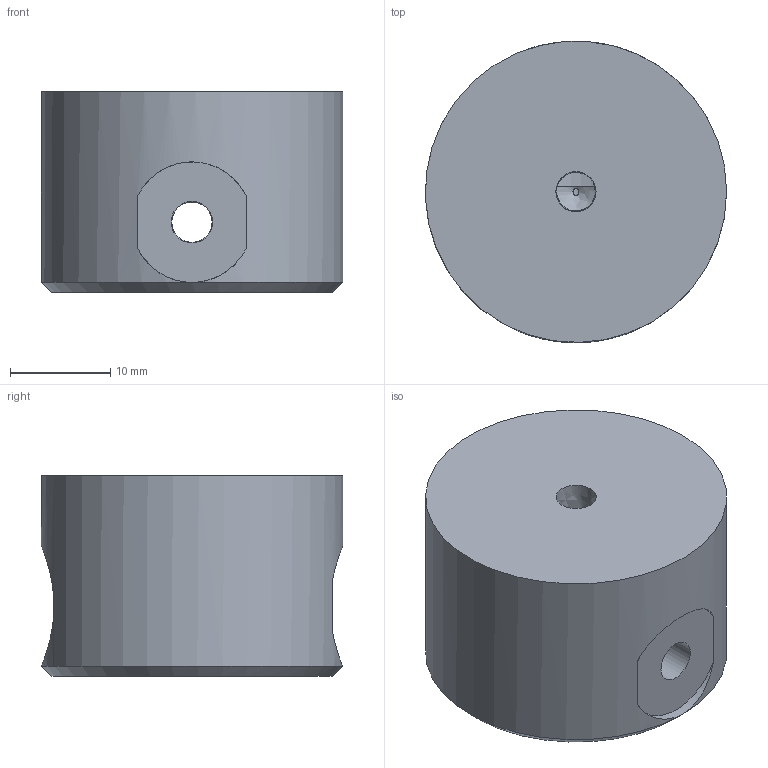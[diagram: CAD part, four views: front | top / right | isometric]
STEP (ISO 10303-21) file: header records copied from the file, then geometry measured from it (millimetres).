
FILE_DESCRIPTION((''),'2;1');
FILE_NAME('C:\Documents and Settings\mika1\Mes documents\pulverisation\MarcheLully\NewBuse\Distributeur.stp','2016-07-28T21:24:31',('mika1'),(''),'Autodesk Inventor 2008','Autodesk Inventor 2008','');
FILE_SCHEMA(('AUTOMOTIVE_DESIGN { 1 0 10303 214 1 1 1 1 }'));
Length unit declared in the file: millimetre
Products named in the file (1): Distributeur
Bounding box: 29.99 x 30 x 20 mm (x, y, z)
Volume: 12104.8 mm3; surface area: 4025 mm2
Topology: 1 solids, 1 shells, 15 faces, 43 edges, 28 vertices
Faces by surface type: cylinder 7, plane 4, cone 2, bspline 2
Full cylindrical faces by diameter (mm): 4 x1, 4.134 x1, 12 x1, 30 x1
Entity records: 606 total; most frequent: CARTESIAN_POINT 289, DIRECTION 56, ORIENTED_EDGE 52, AXIS2_PLACEMENT_3D 26, EDGE_CURVE 26, EDGE_LOOP 26, VERTEX_POINT 20, FACE_OUTER_BOUND 14
